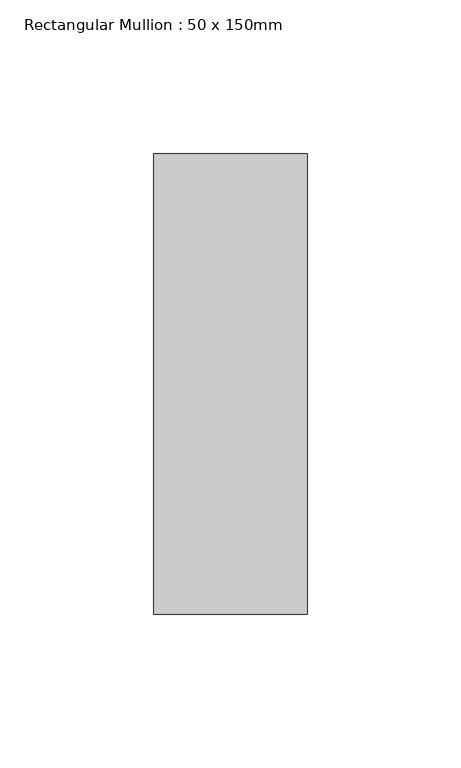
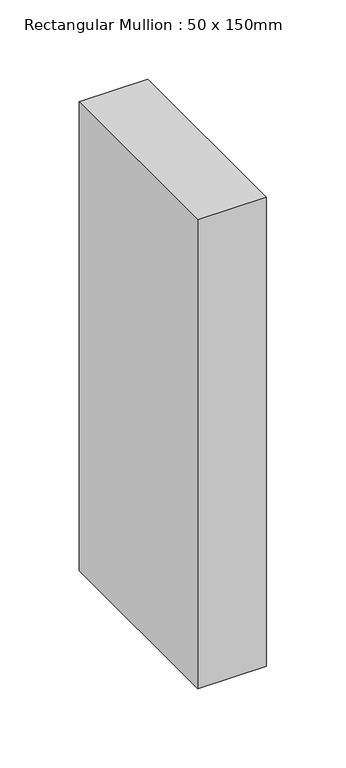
"""IFC4 building model written with IfcOpenShell, lengths in millimetres: member geometry, Rectangular Mullion : 50 x 150mm."""

from ifc_helpers import new_model, si_unit, frame, origin, place, context, project, spatial, polyline, outline, extrude, source, transform, mapped, element, save


def rectangular_mullion_50_x_150mm_1504598e(model_context):
    return source(origin(), model_context, "Body", "SweptSolid", [
        extrude(outline(polyline([(0.0, 75.0), (0.0, -75.0), (-50.0, -75.0), (-50.0, 75.0), (0.0, 75.0)])), frame((0.0, 0.0, -361.8117582), z_axis=(0.0, 0.0, 1.0), x_axis=(1.0, 0.0, 0.0)), (0.0, 0.0, 1.0), 361.8117582),
    ])


if __name__ == "__main__":
    model = new_model("IFC4")
    model_context = context("Model", 3, world=origin())
    ifc_project = project(units=[si_unit("LENGTHUNIT", "METRE", prefix="MILLI")], contexts=[model_context])
    site = spatial("IfcSite", under=ifc_project)
    building = spatial("IfcBuilding", under=site)
    placement = place(None, origin())
    rectangular_mullion_50_x_150mm_shape = rectangular_mullion_50_x_150mm_1504598e(model_context)
    element("IfcMember", 1, ObjectType="Rectangular Mullion : 50 x 150mm", at=placement, inside=building, context=model_context, shape_type="MappedRepresentation", body=[
        mapped(rectangular_mullion_50_x_150mm_shape, transform((0.0, 0.0, 0.0), x_axis=(1.0, 0.0, 0.0), y_axis=(0.0, 1.0, 0.0), z_axis=(0.0, 0.0, 1.0))),
    ])
    save(model, "model.ifc")
